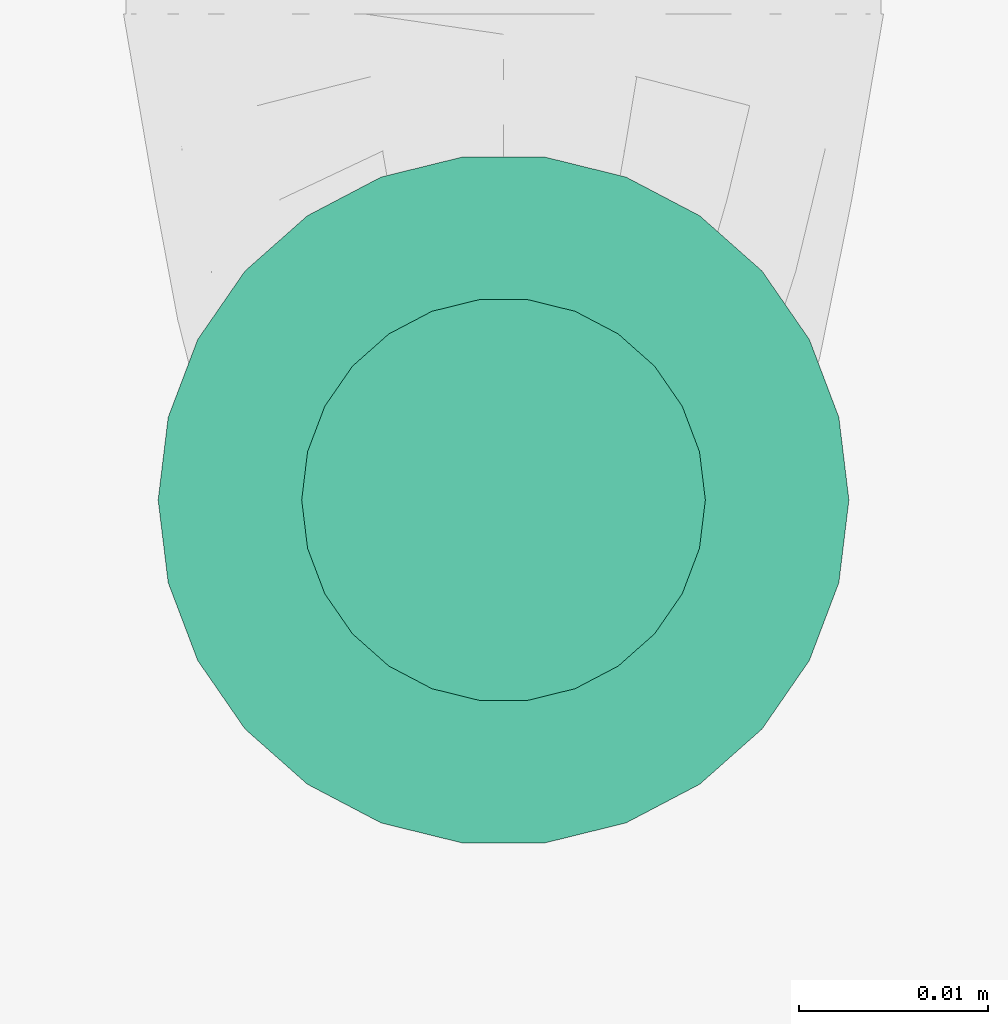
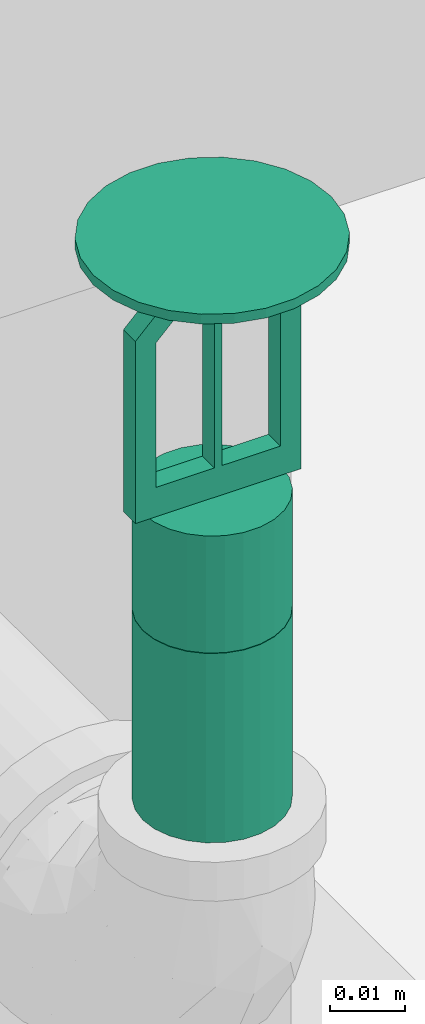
# One storey, part 87 of 108: 1 fire suppression terminal, 1 pipe segment.
"""IFC4 building model written with IfcOpenShell, lengths in feet."""

import ifcopenshell
import ifcopenshell.guid

model = None  # the IFC model being written
_history = None  # IfcOwnerHistory: only IFC2X3 demands one
_inside = {}  # id of a spatial element -> (the spatial element, [elements in it])
_under = {}  # id of a project, library or spatial element -> (it, [spatial elements below it])
_declared = {}  # id of a project -> (the project, [libraries it declares])
_typed = {}  # id of a type object -> (the type object, [elements of that type])
_made_of = {}  # id of a material, layer set ... -> (it, [elements and type objects made of it])


def new_model(schema):
    """Start an empty IFC model of exactly this schema.

    Asked for "IFC4X3", IfcOpenShell would pick the latest addendum, in which some entities
    have other attributes; the version numbers below select the first issue.
    IFC2X3 requires an IfcOwnerHistory on every rooted entity: one is made here for all.
    """
    global model, _history
    if schema == "IFC4X3":
        model = ifcopenshell.file(schema_version=(4, 3, 0, 0))
    else:
        model = ifcopenshell.file(schema=schema)
    _inside.clear()
    _under.clear()
    _declared.clear()
    _typed.clear()
    _made_of.clear()
    _history = None
    if model.schema == "IFC2X3":
        org = make("IfcOrganization", Name="unknown")
        user = make(
            "IfcPersonAndOrganization",
            ThePerson=make("IfcPerson", FamilyName="unknown"),
            TheOrganization=org,
        )
        app = make(
            "IfcApplication",
            ApplicationDeveloper=org,
            Version="unknown",
            ApplicationFullName="unknown",
            ApplicationIdentifier="unknown",
        )
        _history = make(
            "IfcOwnerHistory",
            OwningUser=user,
            OwningApplication=app,
            ChangeAction="ADDED",
            CreationDate=0,
        )
    return model


def make(cls, **values):
    """One entity of the class cls with the attributes given. An attribute that is None is left unset."""
    return model.create_entity(
        cls, **{name: value for name, value in values.items() if value is not None}
    )


def entity(cls, *values):
    """Any entity or typed value of the class cls, its attributes in the order of the schema. None: left unset."""
    e = model.create_entity(cls)
    for i, value in enumerate(values):
        if value is not None:
            e[i] = value
    return e


def rooted(cls, **values):
    """An entity with a GlobalId (a new one), such as an element, a storey or a relation."""
    return make(cls, GlobalId=ifcopenshell.guid.new(), OwnerHistory=_history, **values)


def si_unit(unit_type, name, prefix=None):
    """IfcSIUnit, for example si_unit("LENGTHUNIT", "METRE", prefix="MILLI")."""
    return make("IfcSIUnit", UnitType=unit_type, Prefix=prefix, Name=name)


def converted_unit(unit_type, name, factor, base, dimensions=None, offset=None):
    """IfcConversionBasedUnit, such as the inch: factor (a typed value) times the base unit."""
    return make(
        "IfcConversionBasedUnit"
        if offset is None
        else "IfcConversionBasedUnitWithOffset",
        ConversionOffset=offset,
        Dimensions=None
        if dimensions is None
        else entity("IfcDimensionalExponents", *dimensions),
        UnitType=unit_type,
        Name=name,
        ConversionFactor=make(
            "IfcMeasureWithUnit", ValueComponent=factor, UnitComponent=base
        ),
    )


def derived_unit(unit_type, elements):
    """IfcDerivedUnit: a product of units, each with its exponent."""
    return make(
        "IfcDerivedUnit",
        Elements=[
            make("IfcDerivedUnitElement", Unit=unit, Exponent=power)
            for unit, power in elements
        ],
        UnitType=unit_type,
    )


def assignment(units):
    """IfcUnitAssignment: the units of a project."""
    return None if units is None else make("IfcUnitAssignment", Units=units)


def point(xyz):
    """IfcCartesianPoint."""
    return None if xyz is None else make("IfcCartesianPoint", Coordinates=xyz)


def direction(xyz):
    """IfcDirection."""
    return None if xyz is None else make("IfcDirection", DirectionRatios=xyz)


def frame(location, z_axis=None, x_axis=None):
    """IfcAxis2Placement3D, a coordinate frame: its origin and axes. An axis left out is left unset."""
    return make(
        "IfcAxis2Placement3D",
        Location=point(location),
        Axis=direction(z_axis),
        RefDirection=direction(x_axis),
    )


def frame_2d(location, x_axis=None):
    """IfcAxis2Placement2D, a coordinate frame in the plane: its origin and x axis."""
    return make(
        "IfcAxis2Placement2D", Location=point(location), RefDirection=direction(x_axis)
    )


def origin():
    """The frame at (0, 0, 0) with its axes left unset."""
    return frame((0.0, 0.0, 0.0))


def origin_2d_with_axis():
    """The frame at (0, 0) in the plane with the x axis (1, 0) written out."""
    return frame_2d((0.0, 0.0), x_axis=(1.0, 0.0))


def place(relative_to, where):
    """IfcLocalPlacement: puts the frame where relative to a parent placement (None: the world)."""
    return make(
        "IfcLocalPlacement", PlacementRelTo=relative_to, RelativePlacement=where
    )


def context(
    kind, dimensions, precision=None, world=None, true_north=None, identifier=None
):
    """IfcGeometricRepresentationContext, for example the 3D "Model" context."""
    return make(
        "IfcGeometricRepresentationContext",
        ContextIdentifier=identifier,
        ContextType=kind,
        CoordinateSpaceDimension=dimensions,
        Precision=precision,
        WorldCoordinateSystem=world,
        TrueNorth=true_north,
    )


def subcontext(parent, identifier, kind, view, scale=None):
    """IfcGeometricRepresentationSubContext, for example "Body" below "Model"."""
    return make(
        "IfcGeometricRepresentationSubContext",
        ContextIdentifier=identifier,
        ContextType=kind,
        ParentContext=parent,
        TargetScale=scale,
        TargetView=view,
    )


def project(units=None, contexts=None):
    """IfcProject with its units and contexts."""
    return rooted(
        "IfcProject",
        Name="project",
        RepresentationContexts=contexts,
        UnitsInContext=assignment(units),
    )


def spatial(cls, under=None, at=None, **own):
    """A site, building, storey or space (cls), placed at a placement, below another one or the project."""
    s = rooted(cls, ObjectPlacement=at, **own)
    if under is not None:
        _under.setdefault(under.id(), (under, []))[1].append(s)
    return s


def polyline(points):
    """IfcPolyline through the points."""
    return make("IfcPolyline", Points=[point(p) for p in points])


def profile(cls, at=None, kind="AREA", **sizes):
    """A parametric profile (cls). Its sizes go by their IFC names, for example OverallWidth=200.0."""
    return make(cls, ProfileType=kind, Position=at, **sizes)


def circle(**sizes):
    """IfcCircleProfileDef."""
    return profile("IfcCircleProfileDef", **sizes)


def outline(outer, holes=None, kind="AREA"):
    """IfcArbitraryClosedProfileDef: a profile drawn as a closed curve; with holes, ...WithVoids."""
    if holes is None:
        return make("IfcArbitraryClosedProfileDef", ProfileType=kind, OuterCurve=outer)
    return make(
        "IfcArbitraryProfileDefWithVoids",
        ProfileType=kind,
        OuterCurve=outer,
        InnerCurves=holes,
    )


def extrude(swept, where, along, depth):
    """IfcExtrudedAreaSolid: the profile swept, set in the frame where, extruded along a direction by depth."""
    return make(
        "IfcExtrudedAreaSolid",
        SweptArea=swept,
        Position=where,
        ExtrudedDirection=direction(along),
        Depth=depth,
    )


def shape(context_of_items, identifier, shape_type, items):
    """IfcShapeRepresentation: the items that make up one representation, for example the "Body"."""
    return make(
        "IfcShapeRepresentation",
        ContextOfItems=context_of_items,
        RepresentationIdentifier=identifier,
        RepresentationType=shape_type,
        Items=items,
    )


def source(mapping_origin, context_of_items, identifier, shape_type, items):
    """IfcRepresentationMap: a shape defined once, which mapped items show again and again."""
    return make(
        "IfcRepresentationMap",
        MappingOrigin=mapping_origin,
        MappedRepresentation=shape(context_of_items, identifier, shape_type, items),
    )


def transform(
    local_origin,
    x_axis=None,
    y_axis=None,
    z_axis=None,
    scale=None,
    scale2=None,
    scale3=None,
    uniform=True,
):
    """IfcCartesianTransformationOperator3D, or its non-uniform kind. x_axis, y_axis, z_axis: its Axis1, 2, 3."""
    if uniform:
        return make(
            "IfcCartesianTransformationOperator3D",
            Axis1=direction(x_axis),
            Axis2=direction(y_axis),
            LocalOrigin=point(local_origin),
            Scale=scale,
            Axis3=direction(z_axis),
        )
    return make(
        "IfcCartesianTransformationOperator3DnonUniform",
        Axis1=direction(x_axis),
        Axis2=direction(y_axis),
        LocalOrigin=point(local_origin),
        Scale=scale,
        Axis3=direction(z_axis),
        Scale2=scale2,
        Scale3=scale3,
    )


def mapped(mapping_source, mapping_target):
    """IfcMappedItem: shows the shape of a source again, moved by a transform."""
    return make(
        "IfcMappedItem", MappingSource=mapping_source, MappingTarget=mapping_target
    )


def material(Name=None, Category=None):
    """IfcMaterial."""
    return make("IfcMaterial", Name=Name, Category=Category)


def made_of(thing, what):
    """Note that an element or type object is made of a material, layer set ...; save() writes the relation."""
    if what is not None:
        _made_of.setdefault(what.id(), (what, []))[1].append(thing)
    return thing


def type_object(cls, material=None, **own):
    """A type object (cls), such as IfcWallType, which elements share."""
    return made_of(rooted(cls, **own), material)


def type_shapes(of_type, sources):
    """Give a type object the sources (RepresentationMaps) that its elements show as mapped items."""
    of_type.RepresentationMaps = sources


def element(
    cls,
    number,
    at=None,
    inside=None,
    cuts=None,
    type_object=None,
    material=None,
    context=None,
    identifier="Body",
    shape_type=None,
    held_by="IfcProductDefinitionShape",
    body=None,
    shapes=None,
    **own,
):
    """One element of the class cls, such as IfcWall. Its Tag is "e" and its number.

    at: its placement. inside: the storey or other place that contains it. cuts: it is an
    opening in that element (IfcRelVoidsElement). A single representation is given by context,
    identifier, shape_type and body (its items); several are given by shapes. held_by: the class
    of the entity that holds the representations. save() writes the other relations.
    """
    e = rooted(cls, Tag="e%d" % number, ObjectPlacement=at, **own)
    if body is not None:
        shapes = [shape(context, identifier, shape_type, body)]
    if shapes is not None:
        e.Representation = make(held_by, Representations=shapes)
    if inside is not None:
        _inside.setdefault(inside.id(), (inside, []))[1].append(e)
    if cuts is not None:
        rooted(
            "IfcRelVoidsElement", RelatingBuildingElement=cuts, RelatedOpeningElement=e
        )
    if type_object is not None:
        _typed.setdefault(type_object.id(), (type_object, []))[1].append(e)
    return made_of(e, material)


def aggregate(whole, parts):
    """IfcRelAggregates: a whole, such as a stair, and the parts it consists of."""
    return rooted("IfcRelAggregates", RelatingObject=whole, RelatedObjects=parts)


def save(model, path):
    """Write the relations noted so far, then the file.

    IfcRelAggregates (storeys below a building ...), IfcRelContainedInSpatialStructure (elements
    in a storey), IfcRelDefinesByType, IfcRelAssociatesMaterial and IfcRelDeclares: one each for
    every whole, place, type object, material and project.
    """
    for whole, parts in _under.values():
        aggregate(whole, parts)
    for where, things in _inside.values():
        rooted(
            "IfcRelContainedInSpatialStructure",
            RelatedElements=things,
            RelatingStructure=where,
        )
    for kind, things in _typed.values():
        rooted("IfcRelDefinesByType", RelatedObjects=things, RelatingType=kind)
    for what, things in _made_of.values():
        rooted("IfcRelAssociatesMaterial", RelatedObjects=things, RelatingMaterial=what)
    for by, libraries in _declared.values():
        rooted("IfcRelDeclares", RelatingContext=by, RelatedDefinitions=libraries)
    model.write(path)


model = new_model("IFC4")

# Units and contexts
model_context = context("Model", 3, precision=0.0001, world=origin(), true_north=direction((6.12303176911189e-17, 1.0)))
body_context = subcontext(model_context, "Body", "Model", "MODEL_VIEW")
ifc_project = project(units=[converted_unit("LENGTHUNIT", "FOOT", entity("IfcRatioMeasure", 0.3048), si_unit("LENGTHUNIT", "METRE"), dimensions=[1, 0, 0, 0, 0, 0, 0]), converted_unit("AREAUNIT", "SQUARE FOOT", entity("IfcRatioMeasure", 0.09290304), si_unit("AREAUNIT", "SQUARE_METRE"), dimensions=[2, 0, 0, 0, 0, 0, 0]), converted_unit("VOLUMEUNIT", "CUBIC FOOT", entity("IfcRatioMeasure", 0.028316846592), si_unit("VOLUMEUNIT", "CUBIC_METRE"), dimensions=[3, 0, 0, 0, 0, 0, 0]), converted_unit("PLANEANGLEUNIT", "DEGREE", entity("IfcRatioMeasure", 0.0174532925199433), si_unit("PLANEANGLEUNIT", "RADIAN"), dimensions=[0, 0, 0, 0, 0, 0, 0]), si_unit("MASSUNIT", "GRAM", prefix="KILO"), derived_unit("MASSDENSITYUNIT", [(si_unit("MASSUNIT", "GRAM", prefix="KILO"), 1), (si_unit("LENGTHUNIT", "METRE"), -3)]), si_unit("TIMEUNIT", "SECOND"), si_unit("FREQUENCYUNIT", "HERTZ"), si_unit("THERMODYNAMICTEMPERATUREUNIT", "DEGREE_CELSIUS"), derived_unit("THERMALTRANSMITTANCEUNIT", [(si_unit("MASSUNIT", "GRAM", prefix="KILO"), 1), (si_unit("THERMODYNAMICTEMPERATUREUNIT", "KELVIN"), -1), (si_unit("TIMEUNIT", "SECOND"), -3)]), derived_unit("VOLUMETRICFLOWRATEUNIT", [(si_unit("LENGTHUNIT", "METRE"), 3), (si_unit("TIMEUNIT", "SECOND"), -1)]), si_unit("ELECTRICCURRENTUNIT", "AMPERE"), si_unit("ELECTRICVOLTAGEUNIT", "VOLT"), si_unit("POWERUNIT", "WATT"), si_unit("FORCEUNIT", "NEWTON"), si_unit("ILLUMINANCEUNIT", "LUX"), si_unit("LUMINOUSFLUXUNIT", "LUMEN"), si_unit("LUMINOUSINTENSITYUNIT", "CANDELA"), derived_unit("USERDEFINED", [(si_unit("MASSUNIT", "GRAM", prefix="KILO"), -1), (si_unit("LENGTHUNIT", "METRE"), -2), (si_unit("TIMEUNIT", "SECOND"), 3), (si_unit("LUMINOUSFLUXUNIT", "LUMEN"), 1)]), derived_unit("LINEARVELOCITYUNIT", [(si_unit("LENGTHUNIT", "METRE"), 1), (si_unit("TIMEUNIT", "SECOND"), -1)]), si_unit("PRESSUREUNIT", "PASCAL"), derived_unit("USERDEFINED", [(si_unit("LENGTHUNIT", "METRE"), -2), (si_unit("MASSUNIT", "GRAM", prefix="KILO"), 1), (si_unit("TIMEUNIT", "SECOND"), -2)])], contexts=[model_context])

# Site, building, storey
site_placement = place(None, origin())
site = spatial("IfcSite", under=ifc_project, at=site_placement, Name="Default", CompositionType="ELEMENT")
building_placement = place(site_placement, origin())
building = spatial("IfcBuilding", under=site, at=building_placement, CompositionType="ELEMENT")
storey_placement = place(building_placement, frame((0.0, 0.0, 168.0)))
storey = spatial("IfcBuildingStorey", under=building, at=storey_placement, Name="Level 15", CompositionType="ELEMENT", Elevation=168.0)

# Pipe segment
pipe_segment_type = type_object("IfcPipeSegmentType", Name="Pipe Types:Fire Prot Sched 10 Main", PredefinedType="NOTDEFINED")
pipe_segment_placement = place(storey_placement, frame((-36.7751141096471, -13.8263949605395, 10.3575910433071)))
element("IfcPipeSegment", 1, at=pipe_segment_placement, inside=storey, type_object=pipe_segment_type, Name="Pipe Types:Fire Prot Sched 10 Main", ObjectType="Pipe Types:Fire Prot Sched 10 Main", PredefinedType="NOTDEFINED", context=body_context, shape_type="SweptSolid", body=[
    extrude(circle(Radius=0.035, at=origin_2d_with_axis()), frame((0.0402338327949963, 0.0402338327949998, 0.0)), (0.0, 0.0, 1.0), 0.100742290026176),
])

# Fire suppression terminal
ifc_material = material(Name="Default", Category="Miscellaneous")
fire_suppression_terminal_type = type_object("IfcFireSuppressionTerminalType", Name="Standard", PredefinedType="NOTDEFINED", material=ifc_material)
shared_shape = source(origin(), body_context, "Body", "SweptSolid", [
    extrude(outline(polyline([(-0.0416666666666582, -0.0872160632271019), (0.0416666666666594, -0.0872160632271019), (0.0416666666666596, 0.00964585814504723), (0.0167345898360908, 0.0345779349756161), (0.0167345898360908, 0.0429922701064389), (-0.0167345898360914, 0.0429922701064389), (-0.0167345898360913, 0.0345779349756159), (-0.0416666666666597, 0.00964585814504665), (-0.0416666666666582, -0.0872160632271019)]), holes=[polyline([(0.00195312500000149, -0.0715910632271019), (0.00195312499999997, 0.0261635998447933), (0.0104175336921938, 0.0261635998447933), (0.0312499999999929, 0.00533113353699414), (0.0312499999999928, -0.0715910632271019), (0.00195312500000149, -0.0715910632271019)]), polyline([(-0.0019531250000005, -0.0715910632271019), (-0.0312499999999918, -0.0715910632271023), (-0.031249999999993, 0.00533113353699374), (-0.0104175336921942, 0.0261635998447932), (-0.00195312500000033, 0.0261635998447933), (-0.0019531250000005, -0.0715910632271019)])]), frame((0.0, -0.00520833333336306, 0.14971606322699), z_axis=(0.0, 1.0, 0.0), x_axis=(-1.0, 0.0, 0.0)), (0.0, 0.0, 1.0), 0.0104166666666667),
    extrude(circle(Radius=0.035, at=frame_2d((-2.76586283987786e-18, -4.44862351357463e-17), x_axis=(1.0, 0.0))), frame((0.0, 0.0, 0.0), z_axis=(0.0, 0.0, 1.0), x_axis=(-1.0, 0.0, 0.0)), (0.0, 0.0, 1.0), 0.0624999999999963),
    extrude(circle(Radius=0.0598958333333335, at=frame_2d((5.01992838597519e-20, -7.61297178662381e-17), x_axis=(1.0, 0.0))), frame((0.0, 0.0, 0.192708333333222), z_axis=(0.0, 0.0, 1.0), x_axis=(-1.0, 0.0, 0.0)), (0.0, 0.0, 1.0), 0.00520833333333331),
])
type_shapes(fire_suppression_terminal_type, [shared_shape])
fire_suppression_terminal_placement = place(storey_placement, frame((-36.7348802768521, -13.7861611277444, 10.4583333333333)))
element("IfcFireSuppressionTerminal", 2, at=fire_suppression_terminal_placement, inside=storey, type_object=fire_suppression_terminal_type, material=ifc_material, Name="Upright:Standard", ObjectType="Upright:Standard", PredefinedType="NOTDEFINED", context=body_context, shape_type="MappedRepresentation", body=[
    mapped(shared_shape, transform((0.0, 0.0, 0.0), scale=1.0)),
])

save(model, "model.ifc")
